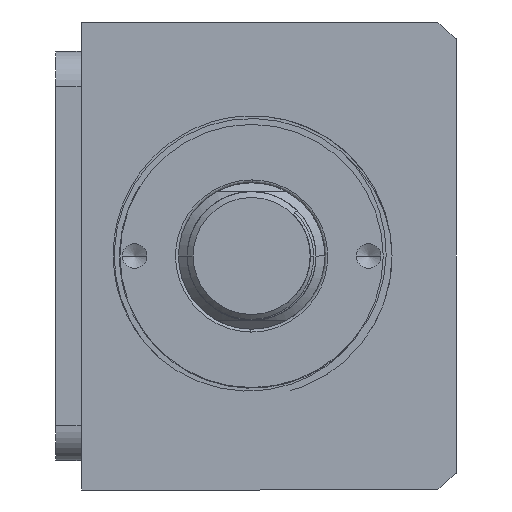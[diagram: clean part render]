
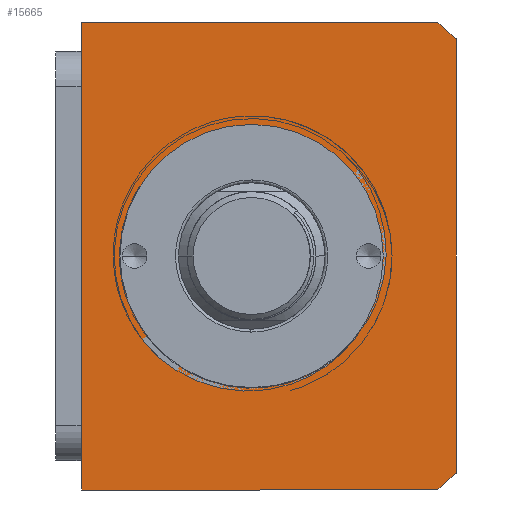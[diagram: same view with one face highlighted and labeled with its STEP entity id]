
A CAD part, front view. The second image highlights one B-rep face of the part: STEP entity #15665.
In plain terms, the highlighted planar face has unit normal (0, -1, 0) as drawn and (0, 0, 1) by its records, which use the part's own axes.
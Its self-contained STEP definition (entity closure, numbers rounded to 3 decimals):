
#269 = PLANE ( 'NONE',  #7965 ) ;
#341 = CARTESIAN_POINT ( 'NONE',  ( -40., -32., 115. ) ) ;
#538 = DIRECTION ( 'NONE',  ( 0., 0., 1. ) ) ;
#1080 = DIRECTION ( 'NONE',  ( 0., 0., 1. ) ) ;
#1313 = CARTESIAN_POINT ( 'NONE',  ( 40., 32., 115. ) ) ;
#1659 = VERTEX_POINT ( 'NONE', #6431 ) ;
#1763 = AXIS2_PLACEMENT_3D ( 'NONE', #8738, #538, #10100 ) ;
#1862 = CARTESIAN_POINT ( 'NONE',  ( 37.094, -32., 115. ) ) ;
#1891 = AXIS2_PLACEMENT_3D ( 'NONE', #9292, #1080, #10655 ) ;
#2691 = DIRECTION ( 'NONE',  ( 0., 1., 0. ) ) ;
#2818 = LINE ( 'NONE', #13894, #9681 ) ;
#3174 = ORIENTED_EDGE ( 'NONE', *, *, #5904, .T. ) ;
#3302 = FACE_OUTER_BOUND ( 'NONE', #7709, .T. ) ;
#3595 = CARTESIAN_POINT ( 'NONE',  ( 0., 3., 115. ) ) ;
#3697 = FACE_BOUND ( 'NONE', #9683, .T. ) ;
#3895 = DIRECTION ( 'NONE',  ( 0., -1., 0. ) ) ;
#4080 = CARTESIAN_POINT ( 'NONE',  ( 40., -28.639, 115. ) ) ;
#4306 = VERTEX_POINT ( 'NONE', #14074 ) ;
#4481 = AXIS2_PLACEMENT_3D ( 'NONE', #3595, #13166, #4972 ) ;
#4547 = CIRCLE ( 'NONE', #1891, 51. ) ;
#4566 = CIRCLE ( 'NONE', #10671, 22.5 ) ;
#4749 = EDGE_CURVE ( 'NONE', #5402, #4936, #4566, .T. ) ;
#4936 = VERTEX_POINT ( 'NONE', #13657 ) ;
#4972 = DIRECTION ( 'NONE',  ( 1., 0., 0. ) ) ;
#5352 = EDGE_CURVE ( 'NONE', #4936, #5402, #12002, .T. ) ;
#5402 = VERTEX_POINT ( 'NONE', #12841 ) ;
#5432 = LINE ( 'NONE', #1313, #9489 ) ;
#5468 = CARTESIAN_POINT ( 'NONE',  ( -37.094, -32., 115. ) ) ;
#5546 = CARTESIAN_POINT ( 'NONE',  ( 0., 3., 115. ) ) ;
#5772 = DIRECTION ( 'NONE',  ( 1., 0., 0. ) ) ;
#5904 = EDGE_CURVE ( 'NONE', #9587, #17528, #7725, .T. ) ;
#6075 = ORIENTED_EDGE ( 'NONE', *, *, #4749, .F. ) ;
#6236 = LINE ( 'NONE', #8092, #13071 ) ;
#6413 = EDGE_CURVE ( 'NONE', #13942, #4306, #2818, .T. ) ;
#6431 = CARTESIAN_POINT ( 'NONE',  ( -40., -28.639, 115. ) ) ;
#6936 = DIRECTION ( 'NONE',  ( 1., 0., 0. ) ) ;
#7159 = DIRECTION ( 'NONE',  ( 1., 0., 0. ) ) ;
#7164 = EDGE_CURVE ( 'NONE', #17528, #9588, #4547, .T. ) ;
#7203 = ORIENTED_EDGE ( 'NONE', *, *, #6413, .T. ) ;
#7709 = EDGE_LOOP ( 'NONE', ( #8534, #8935, #3174, #10142, #9359, #7203 ) ) ;
#7725 = LINE ( 'NONE', #341, #14562 ) ;
#7763 = EDGE_CURVE ( 'NONE', #1659, #9587, #10700, .T. ) ;
#7965 = AXIS2_PLACEMENT_3D ( 'NONE', #11210, #13965, #5772 ) ;
#8092 = CARTESIAN_POINT ( 'NONE',  ( -40., 32., 115. ) ) ;
#8534 = ORIENTED_EDGE ( 'NONE', *, *, #17100, .T. ) ;
#8551 = ORIENTED_EDGE ( 'NONE', *, *, #5352, .F. ) ;
#8738 = CARTESIAN_POINT ( 'NONE',  ( 0., 3., 115. ) ) ;
#8935 = ORIENTED_EDGE ( 'NONE', *, *, #7763, .T. ) ;
#9292 = CARTESIAN_POINT ( 'NONE',  ( 0., 3., 115. ) ) ;
#9359 = ORIENTED_EDGE ( 'NONE', *, *, #15415, .T. ) ;
#9489 = VECTOR ( 'NONE', #2691, 1000. ) ;
#9587 = VERTEX_POINT ( 'NONE', #5468 ) ;
#9588 = VERTEX_POINT ( 'NONE', #4080 ) ;
#9681 = VECTOR ( 'NONE', #15266, 1000. ) ;
#9683 = EDGE_LOOP ( 'NONE', ( #6075, #8551 ) ) ;
#10100 = DIRECTION ( 'NONE',  ( 1., 0., 0. ) ) ;
#10142 = ORIENTED_EDGE ( 'NONE', *, *, #7164, .T. ) ;
#10655 = DIRECTION ( 'NONE',  ( 1., 0., 0. ) ) ;
#10671 = AXIS2_PLACEMENT_3D ( 'NONE', #5546, #15116, #6936 ) ;
#10700 = CIRCLE ( 'NONE', #4481, 51. ) ;
#11210 = CARTESIAN_POINT ( 'NONE',  ( 0., 0., 115. ) ) ;
#12002 = CIRCLE ( 'NONE', #1763, 22.5 ) ;
#12841 = CARTESIAN_POINT ( 'NONE',  ( 22.5, 3., 115. ) ) ;
#13071 = VECTOR ( 'NONE', #3895, 1000. ) ;
#13166 = DIRECTION ( 'NONE',  ( 0., 0., 1. ) ) ;
#13657 = CARTESIAN_POINT ( 'NONE',  ( -22.5, 3., 115. ) ) ;
#13894 = CARTESIAN_POINT ( 'NONE',  ( -40., 32., 115. ) ) ;
#13942 = VERTEX_POINT ( 'NONE', #16632 ) ;
#13965 = DIRECTION ( 'NONE',  ( 0., 0., 1. ) ) ;
#14074 = CARTESIAN_POINT ( 'NONE',  ( -40., 32., 115. ) ) ;
#14562 = VECTOR ( 'NONE', #7159, 1000. ) ;
#15116 = DIRECTION ( 'NONE',  ( 0., 0., 1. ) ) ;
#15266 = DIRECTION ( 'NONE',  ( -1., 0., 0. ) ) ;
#15415 = EDGE_CURVE ( 'NONE', #9588, #13942, #5432, .T. ) ;
#15665 = ADVANCED_FACE ( 'NONE', ( #3697, #3302 ), #269, .T. ) ;
#16632 = CARTESIAN_POINT ( 'NONE',  ( 40., 32., 115. ) ) ;
#17100 = EDGE_CURVE ( 'NONE', #4306, #1659, #6236, .T. ) ;
#17528 = VERTEX_POINT ( 'NONE', #1862 ) ;
